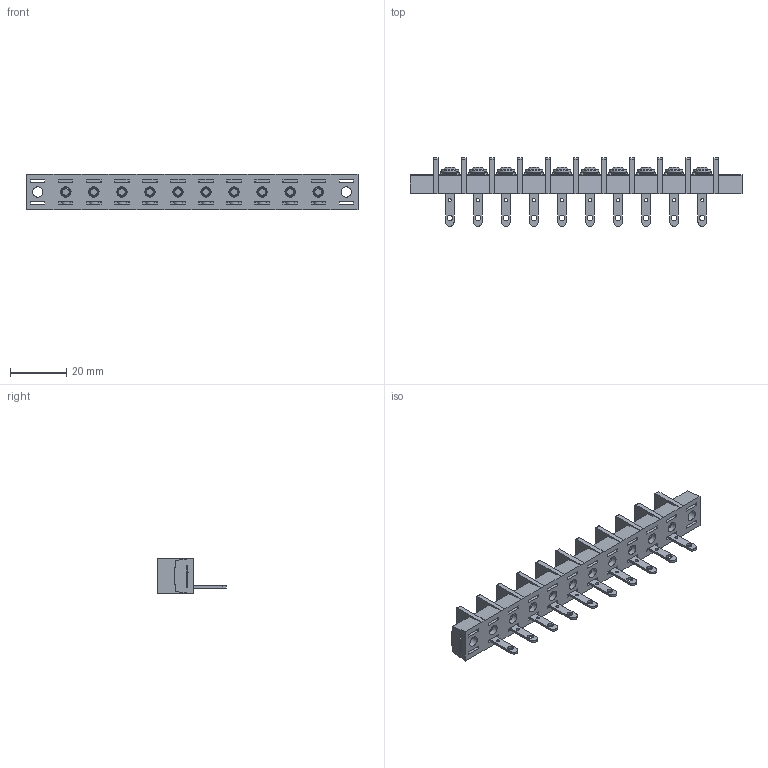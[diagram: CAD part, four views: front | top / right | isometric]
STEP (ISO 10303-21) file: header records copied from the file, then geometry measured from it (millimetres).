
FILE_DESCRIPTION(/* description */ ('Alibre Inc.'),/* implementation_level */ '2;1');
FILE_NAME(/* name */ 'export0',/* time_stamp */ '2015-10-22T20:40:44+09:00',/* author */ (''),/* organization */ (''),/* preprocessor_version */ 'ST-DEVELOPER v14',/* originating_system */ 'Alibre',/* authorisation */ '');
FILE_SCHEMA (('CONFIG_CONTROL_DESIGN'));
Length unit declared in the file: centimetre
Products named in the file (1): ID_1
Bounding box: 118.4 x 24.5 x 12.8 mm (x, y, z)
Volume: 10641 mm3; surface area: 12793.8 mm2
Topology: 1 solids, 171 shells, 3242 faces, 8312 edges, 5494 vertices
Faces by surface type: plane 2412, bspline 624, cylinder 126, cone 50, torus 20, sphere 10
Full cylindrical faces by diameter (mm): 1.1 x10, 2 x10, 3 x20, 3.7 x12, 4.6 x12, 6.3 x10
Entity records: 93801 total; most frequent: CARTESIAN_POINT 22579, ORIENTED_EDGE 16392, DIRECTION 9908, EDGE_CURVE 8196, VECTOR 6286, LINE 6286, VERTEX_POINT 5482, EDGE_LOOP 3620
